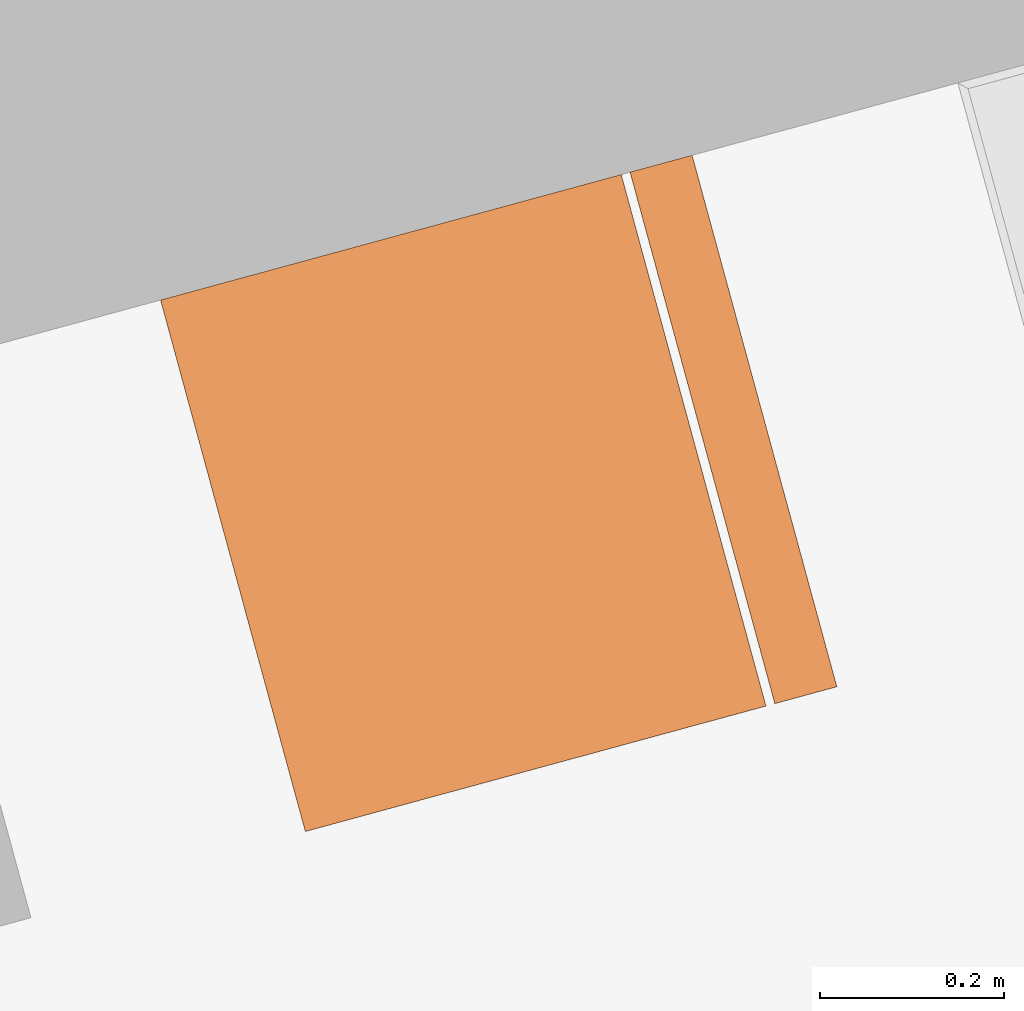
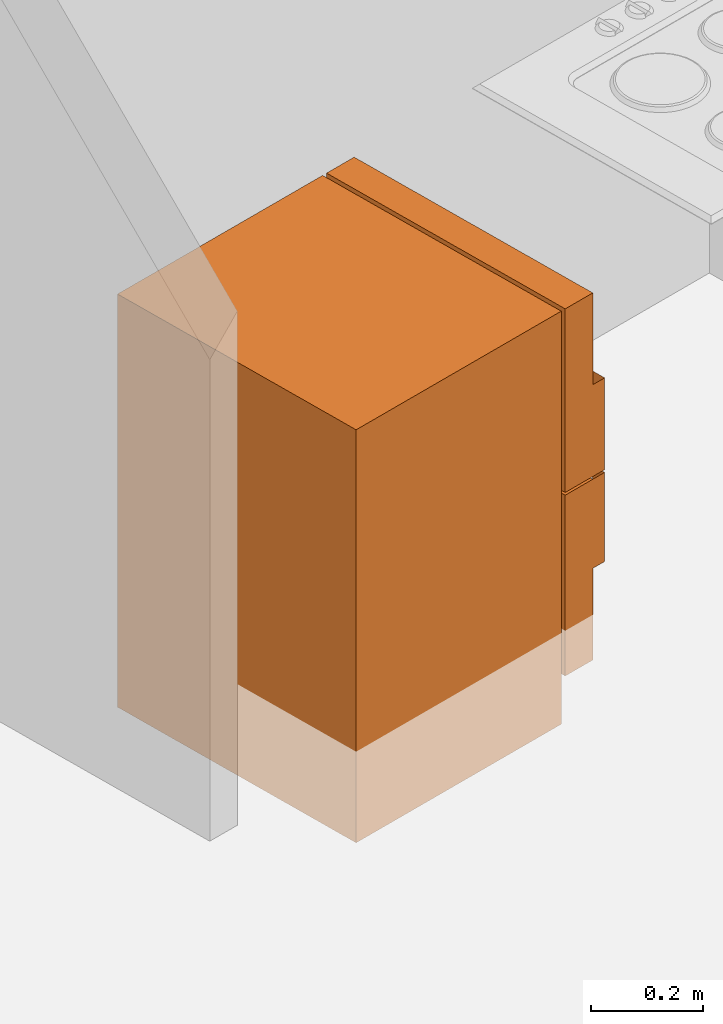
# One storey, part 118 of 121: 1 proxy.
"""IFC2X3 building model written with IfcOpenShell, lengths in metres."""

from ifc_helpers import new_model, entity, si_unit, converted_unit, derived_unit, money_unit, direction, frame, origin_with_axes, place, context, subcontext, project, spatial, open_shell, faceted_brep, surface_model, source, transform, mapped, type_object, element, save


model = new_model("IFC2X3")

# Units and contexts
model_context = context("Model", 3, precision=1e-05, world=origin_with_axes(), true_north=direction((0.0, 1.0)))
body_context = subcontext(model_context, "Body", "Model", "MODEL_VIEW")
ifc_project = project(units=[si_unit("LENGTHUNIT", "METRE"), si_unit("AREAUNIT", "SQUARE_METRE"), si_unit("VOLUMEUNIT", "CUBIC_METRE"), converted_unit("PLANEANGLEUNIT", "DEGREE", entity("IfcPlaneAngleMeasure", 0.0174532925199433), si_unit("PLANEANGLEUNIT", "RADIAN"), dimensions=[0, 0, 0, 0, 0, 0, 0]), money_unit("CHF"), converted_unit("TIMEUNIT", "Year", entity("IfcTimeMeasure", 31557600.0), si_unit("TIMEUNIT", "SECOND"), dimensions=[0, 0, 1, 0, 0, 0, 0]), si_unit("MASSUNIT", "GRAM", prefix="KILO"), si_unit("THERMODYNAMICTEMPERATUREUNIT", "DEGREE_CELSIUS"), si_unit("LUMINOUSINTENSITYUNIT", "LUMEN"), si_unit("ENERGYUNIT", "JOULE", prefix="MEGA"), derived_unit("THERMALCONDUCTANCEUNIT", [(si_unit("POWERUNIT", "WATT"), 1), (si_unit("LENGTHUNIT", "METRE"), -1), (si_unit("THERMODYNAMICTEMPERATUREUNIT", "KELVIN"), -1)]), derived_unit("SPECIFICHEATCAPACITYUNIT", [(si_unit("ENERGYUNIT", "JOULE"), 1), (si_unit("MASSUNIT", "GRAM", prefix="KILO"), -1), (si_unit("THERMODYNAMICTEMPERATUREUNIT", "KELVIN"), -1)]), derived_unit("MASSDENSITYUNIT", [(si_unit("MASSUNIT", "GRAM", prefix="KILO"), 1), (si_unit("VOLUMEUNIT", "CUBIC_METRE"), -1)])], contexts=[model_context])

# Site, building, storey
site_placement = place(None, origin_with_axes())
site = spatial("IfcSite", under=ifc_project, at=site_placement, Name="Site", CompositionType="ELEMENT")
building_placement = place(site_placement, origin_with_axes())
building = spatial("IfcBuilding", under=site, at=building_placement, Name="Bâtiment", CompositionType="ELEMENT")
storey_placement = place(building_placement, frame((0.0, 0.0, 2.75), z_axis=(0.0, 0.0, 1.0), x_axis=(1.0, 0.0, 0.0)))
storey = spatial("IfcBuildingStorey", under=building, at=storey_placement, Name="Etage 1", CompositionType="ELEMENT", Elevation=2.75)

# Proxy
building_element_proxy_type = type_object("IfcBuildingElementProxyType", PredefinedType="NOTDEFINED")
shared_shape = source(origin_with_axes(), body_context, "Body", "SurfaceModel", [
    faceted_brep([(0.0, 0.08, 0.1), (0.0, 0.08, 0.9), (-0.6, 0.08, 0.9), (-0.6, 0.08, 0.1), (0.0, 0.6, 0.1), (0.0, 0.6, 0.9), (-0.6, 0.6, 0.9), (-0.6, 0.6, 0.1)], [[[0, 1, 2, 3]], [[4, 5, 1, 0]], [[1, 5, 6, 2]], [[3, 2, 6, 7]], [[0, 3, 7, 4]], [[7, 6, 5, 4]]]),
    faceted_brep([(0.0, 0.08, 0.0), (0.0, 0.08, 0.1), (-0.6, 0.08, 0.1), (-0.6, 0.08, 0.0), (0.0, 0.6, 0.0), (0.0, 0.6, 0.1), (-0.6, 0.6, 0.1), (-0.6, 0.6, 0.0)], [[[0, 1, 2, 3]], [[4, 5, 1, 0]], [[1, 5, 6, 2]], [[3, 2, 6, 7]], [[0, 3, 7, 4]], [[7, 6, 5, 4]]]),
    faceted_brep([(0.0, 0.07, 0.1), (0.0, 0.0, 0.1), (-0.6, 0.0, 0.1), (-0.6, 0.07, 0.1), (0.0, 0.07000000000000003, 0.494), (0.0, 0.0, 0.494), (-0.6, 0.0, 0.494), (-0.6, 0.07000000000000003, 0.494)], [[[0, 1, 2, 3]], [[4, 5, 1, 0]], [[1, 5, 6, 2]], [[3, 2, 6, 7]], [[0, 3, 7, 4]], [[7, 6, 5, 4]]]),
    faceted_brep([(0.0, 0.07, 0.5), (0.0, 0.0, 0.5), (-0.6, 0.0, 0.5), (-0.6, 0.07, 0.5), (0.0, 0.07000000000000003, 0.9), (0.0, 0.0, 0.9), (-0.6, 0.0, 0.9), (-0.6, 0.07000000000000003, 0.9)], [[[0, 1, 2, 3]], [[4, 5, 1, 0]], [[1, 5, 6, 2]], [[3, 2, 6, 7]], [[0, 3, 7, 4]], [[7, 6, 5, 4]]]),
    surface_model("IfcShellBasedSurfaceModel", [(-0.6, -0.03, 0.3), (-0.6, 0.0, 0.3), (-0.6, 0.0, 0.4940000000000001), (-0.6, -0.03, 0.4940000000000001)], [open_shell([[[0, 1, 2, 3]]])]),
    surface_model("IfcShellBasedSurfaceModel", [(-0.6, -0.03, 0.3), (-0.57, -0.03, 0.3), (-0.57, -0.03, 0.4940000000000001), (-0.6, -0.03, 0.4940000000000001)], [open_shell([[[0, 1, 2, 3]]])]),
    surface_model("IfcShellBasedSurfaceModel", [(-0.6, -0.03, 0.5), (-0.6, 0.0, 0.5), (-0.6, 0.0, 0.7), (-0.6, -0.03, 0.7)], [open_shell([[[0, 1, 2, 3]]])]),
    surface_model("IfcShellBasedSurfaceModel", [(-0.6, -0.03, 0.5), (-0.57, -0.03, 0.5), (-0.57, -0.03, 0.7), (-0.6, -0.03, 0.7)], [open_shell([[[0, 1, 2, 3]]])]),
])
proxy_placement = place(storey_placement, frame((9592.601296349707, -1045.615424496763, 57.49999999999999), z_axis=(0.0, 0.0, 1.0), x_axis=(-0.2627993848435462, 0.9648504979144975, 0.0)))
element("IfcBuildingElementProxy", 1, at=proxy_placement, inside=storey, type_object=building_element_proxy_type, Name="Obj.-019", context=body_context, shape_type="MappedRepresentation", body=[
    mapped(shared_shape, transform((0.0, 0.0, 0.0))),
])

save(model, "model.ifc")
